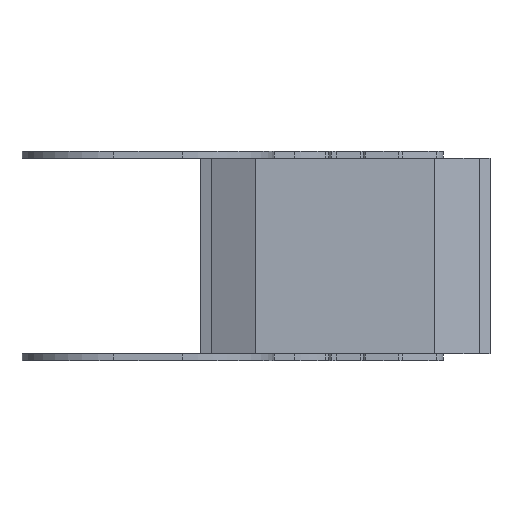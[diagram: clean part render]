
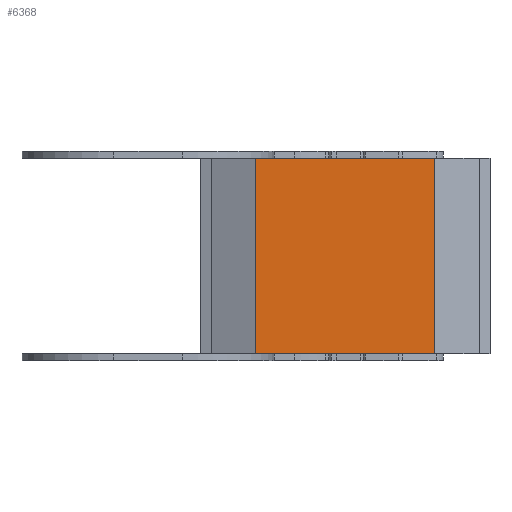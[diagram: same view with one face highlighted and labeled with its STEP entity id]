
A CAD part, front view. The second image highlights one B-rep face of the part: STEP entity #6368.
In plain terms, the highlighted planar face has unit normal (0, -1, 0).
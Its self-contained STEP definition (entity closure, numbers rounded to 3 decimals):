
#2404 = FACE_OUTER_BOUND ( 'NONE', #6395, .T. ) ;
#2405 = DIRECTION ( 'NONE',  ( -1., 0., 0. ) ) ;
#2406 = VECTOR ( 'NONE', #2405, 1000. ) ;
#2407 = CARTESIAN_POINT ( 'NONE',  ( 61.65, 73.55, -85. ) ) ;
#2409 = LINE ( 'NONE', #2407, #2406 ) ;
#2425 = CARTESIAN_POINT ( 'NONE',  ( 124.85, 73.55, -85. ) ) ;
#2450 = DIRECTION ( 'NONE',  ( 0., 0., -1. ) ) ;
#2451 = VECTOR ( 'NONE', #2450, 1000. ) ;
#2452 = CARTESIAN_POINT ( 'NONE',  ( 124.85, 73.55, 88.022 ) ) ;
#2453 = DIRECTION ( 'NONE',  ( 0., 0., 1. ) ) ;
#2454 = VECTOR ( 'NONE', #2453, 1000. ) ;
#2455 = CARTESIAN_POINT ( 'NONE',  ( 46.65, 73.55, -85. ) ) ;
#2456 = LINE ( 'NONE', #2455, #2454 ) ;
#2457 = LINE ( 'NONE', #2452, #2451 ) ;
#2458 = CARTESIAN_POINT ( 'NONE',  ( 46.65, 73.55, 0. ) ) ;
#2459 = CARTESIAN_POINT ( 'NONE',  ( 124.85, 73.55, 0. ) ) ;
#2460 = DIRECTION ( 'NONE',  ( -1., 0., 0. ) ) ;
#2461 = VECTOR ( 'NONE', #2460, 1000. ) ;
#2462 = CARTESIAN_POINT ( 'NONE',  ( 61.65, 73.55, 0. ) ) ;
#2463 = LINE ( 'NONE', #2462, #2461 ) ;
#2464 = DIRECTION ( 'NONE',  ( 0., 0., -1. ) ) ;
#2465 = DIRECTION ( 'NONE',  ( 0., 1., 0. ) ) ;
#2466 = CARTESIAN_POINT ( 'NONE',  ( 61.65, 73.55, -85. ) ) ;
#2467 = AXIS2_PLACEMENT_3D ( 'NONE', #2466, #2465, #2464 ) ;
#2468 = PLANE ( 'NONE',  #2467 ) ;
#2635 = CARTESIAN_POINT ( 'NONE',  ( 46.65, 73.55, -85. ) ) ;
#6367 = EDGE_CURVE ( 'NONE', #6394, #6405, #2409, .T. ) ;
#6368 = ADVANCED_FACE ( 'NONE', ( #2404 ), #2468, .F. ) ;
#6369 = ORIENTED_EDGE ( 'NONE', *, *, #6370, .T. ) ;
#6370 = EDGE_CURVE ( 'NONE', #6371, #6372, #2463, .T. ) ;
#6371 = VERTEX_POINT ( 'NONE', #2459 ) ;
#6372 = VERTEX_POINT ( 'NONE', #2458 ) ;
#6373 = ORIENTED_EDGE ( 'NONE', *, *, #6374, .F. ) ;
#6374 = EDGE_CURVE ( 'NONE', #6405, #6372, #2456, .T. ) ;
#6375 = ORIENTED_EDGE ( 'NONE', *, *, #6367, .F. ) ;
#6376 = ORIENTED_EDGE ( 'NONE', *, *, #6377, .F. ) ;
#6377 = EDGE_CURVE ( 'NONE', #6371, #6394, #2457, .T. ) ;
#6394 = VERTEX_POINT ( 'NONE', #2425 ) ;
#6395 = EDGE_LOOP ( 'NONE', ( #6369, #6373, #6375, #6376 ) ) ;
#6405 = VERTEX_POINT ( 'NONE', #2635 ) ;
